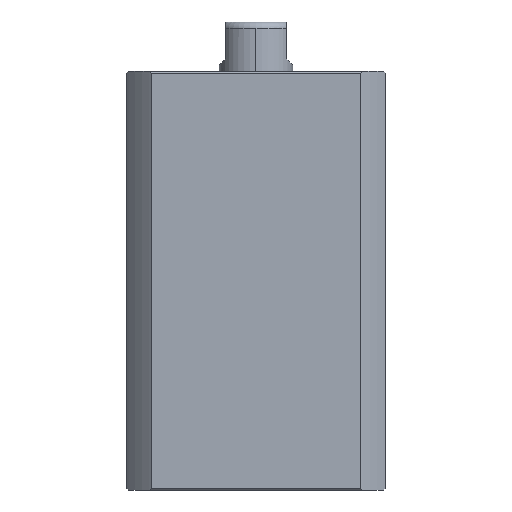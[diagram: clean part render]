
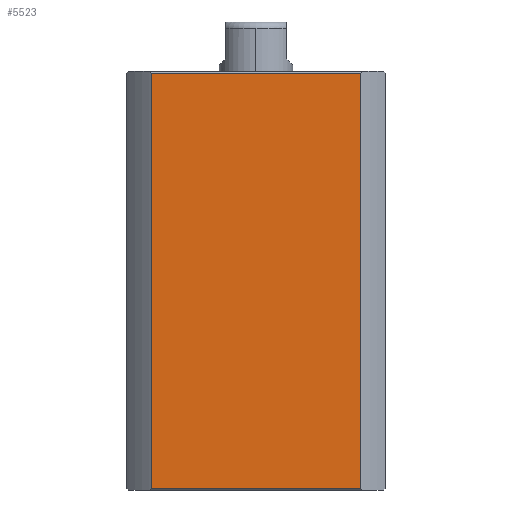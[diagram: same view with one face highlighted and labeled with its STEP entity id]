
A CAD part, left-side view. The second image highlights one B-rep face of the part: STEP entity #5523.
In plain terms, the highlighted planar face has unit normal (-1, 0, 0).
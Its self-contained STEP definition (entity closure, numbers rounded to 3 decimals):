
#903 = VERTEX_POINT ( 'NONE', #10119 ) ;
#927 = DIRECTION ( 'NONE',  ( 0., 1., 0. ) ) ;
#962 = CARTESIAN_POINT ( 'NONE',  ( -21., -16.971, -232. ) ) ;
#1161 = EDGE_CURVE ( 'NONE', #3349, #903, #6575, .T. ) ;
#1505 = DIRECTION ( 'NONE',  ( 0., 0., 1. ) ) ;
#1914 = EDGE_CURVE ( 'NONE', #4180, #3950, #7280, .T. ) ;
#1918 = CARTESIAN_POINT ( 'NONE',  ( -21., 21., 67.7 ) ) ;
#3095 = ORIENTED_EDGE ( 'NONE', *, *, #1161, .T. ) ;
#3349 = VERTEX_POINT ( 'NONE', #11786 ) ;
#3950 = VERTEX_POINT ( 'NONE', #7165 ) ;
#4180 = VERTEX_POINT ( 'NONE', #4672 ) ;
#4672 = CARTESIAN_POINT ( 'NONE',  ( -21., 16.971, 0.3 ) ) ;
#4836 = DIRECTION ( 'NONE',  ( 0., 1., 0. ) ) ;
#5323 = VECTOR ( 'NONE', #1505, 1000. ) ;
#5338 = ORIENTED_EDGE ( 'NONE', *, *, #8056, .F. ) ;
#5523 = ADVANCED_FACE ( 'NONE', ( #5767 ), #11208, .F. ) ;
#5767 = FACE_OUTER_BOUND ( 'NONE', #5825, .T. ) ;
#5825 = EDGE_LOOP ( 'NONE', ( #5338, #7792, #10261, #3095 ) ) ;
#6575 = LINE ( 'NONE', #1918, #8741 ) ;
#6637 = DIRECTION ( 'NONE',  ( 1., 0., 0. ) ) ;
#7054 = VECTOR ( 'NONE', #7603, 1000. ) ;
#7165 = CARTESIAN_POINT ( 'NONE',  ( -21., -16.971, 0.3 ) ) ;
#7280 = LINE ( 'NONE', #8887, #9460 ) ;
#7603 = DIRECTION ( 'NONE',  ( 0., 0., -1. ) ) ;
#7792 = ORIENTED_EDGE ( 'NONE', *, *, #1914, .T. ) ;
#7978 = DIRECTION ( 'NONE',  ( 0., -1., 0. ) ) ;
#8056 = EDGE_CURVE ( 'NONE', #4180, #903, #9674, .T. ) ;
#8615 = EDGE_CURVE ( 'NONE', #3349, #3950, #11934, .T. ) ;
#8741 = VECTOR ( 'NONE', #4836, 1000. ) ;
#8887 = CARTESIAN_POINT ( 'NONE',  ( -21., 21., 0.3 ) ) ;
#9396 = CARTESIAN_POINT ( 'NONE',  ( -21., 21., 68. ) ) ;
#9460 = VECTOR ( 'NONE', #7978, 1000. ) ;
#9674 = LINE ( 'NONE', #11697, #5323 ) ;
#10119 = CARTESIAN_POINT ( 'NONE',  ( -21., 16.971, 67.7 ) ) ;
#10261 = ORIENTED_EDGE ( 'NONE', *, *, #8615, .F. ) ;
#10498 = AXIS2_PLACEMENT_3D ( 'NONE', #9396, #6637, #927 ) ;
#11208 = PLANE ( 'NONE',  #10498 ) ;
#11697 = CARTESIAN_POINT ( 'NONE',  ( -21., 16.971, -232. ) ) ;
#11786 = CARTESIAN_POINT ( 'NONE',  ( -21., -16.971, 67.7 ) ) ;
#11934 = LINE ( 'NONE', #962, #7054 ) ;
